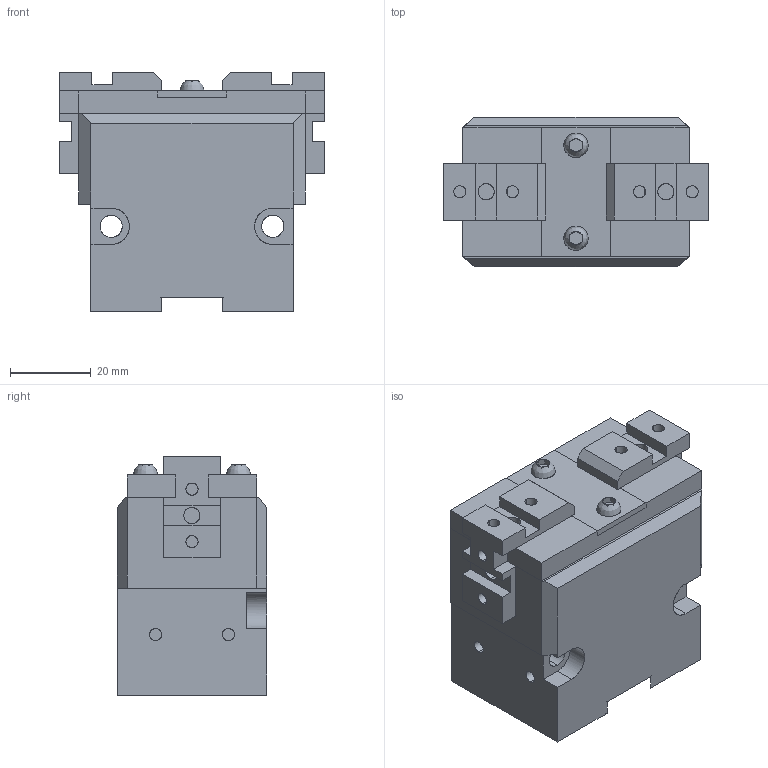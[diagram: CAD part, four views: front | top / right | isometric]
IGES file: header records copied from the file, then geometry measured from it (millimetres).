
Global section: file name: C:\Documents and Settings\Administrateur\Mes documents\OPE-60-SX-OPEN.igs; native system: AutoCAD-16.0s (LMS Tech) (Microsoft Windows NT Version 5.1 (x86)); preprocessor: Autodesk IGES Translator Mechanical Desktop.R7.0.43.0 (Mar 18 2003) from Autodesk, Inc.; date: 20050628.132506; units: millimetre
Bounding box: 65.5 x 37 x 59 mm (x, y, z)
Surface area: 29493.9 mm2 (no closed solid volume)
Topology: 0 solids, 0 shells, 245 faces, 2118 edges, 2204 vertices
Faces by surface type: bspline 245
